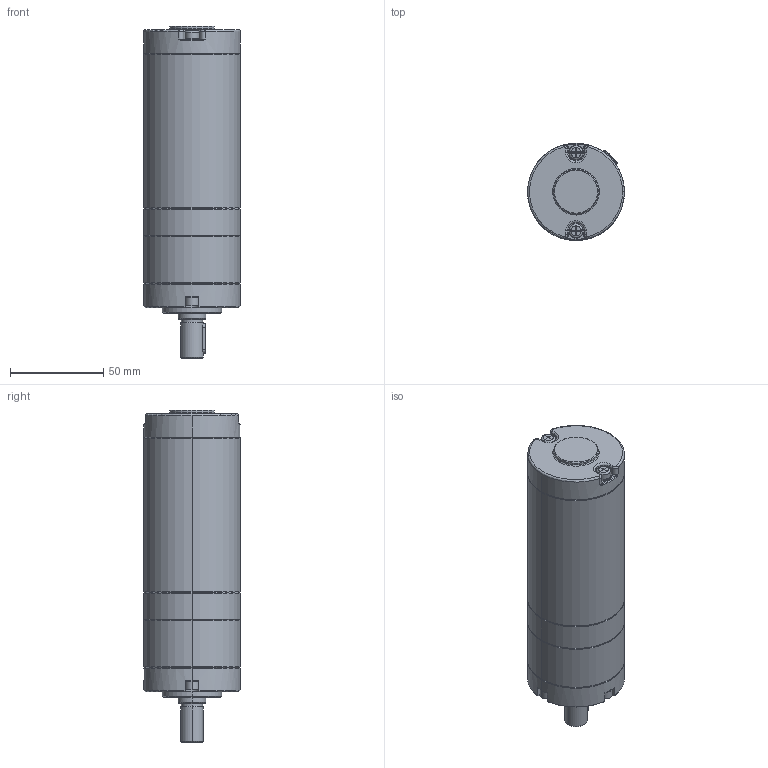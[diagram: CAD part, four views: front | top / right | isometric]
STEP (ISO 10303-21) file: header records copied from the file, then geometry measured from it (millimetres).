
FILE_DESCRIPTION (( 'STEP AP203' ), '1' );
FILE_NAME ('52ZPN衄芃珨撰熬厒.STEP', '2021-07-17T08:16:14', ( '' ), ( '' ), 'SwSTEP 2.0', 'SolidWorks 2021', '' );
FILE_SCHEMA (( 'CONFIG_CONTROL_DESIGN' ));
Length unit declared in the file: millimetre
Products named in the file (1): 52ZPN衄芃珨撰熬厒
Bounding box: 52 x 52 x 178.3 mm (x, y, z)
Volume: 321163 mm3; surface area: 32336.2 mm2
Topology: 1 solids, 1 shells, 306 faces, 720 edges, 431 vertices
Faces by surface type: plane 112, cylinder 104, cone 49, torus 30, bspline 8, sphere 3
Entity records: 9432 total; most frequent: CARTESIAN_POINT 2312, DIRECTION 1555, ORIENTED_EDGE 1408, EDGE_CURVE 704, AXIS2_PLACEMENT_3D 593, VERTEX_POINT 430, LINE 369, VECTOR 369
